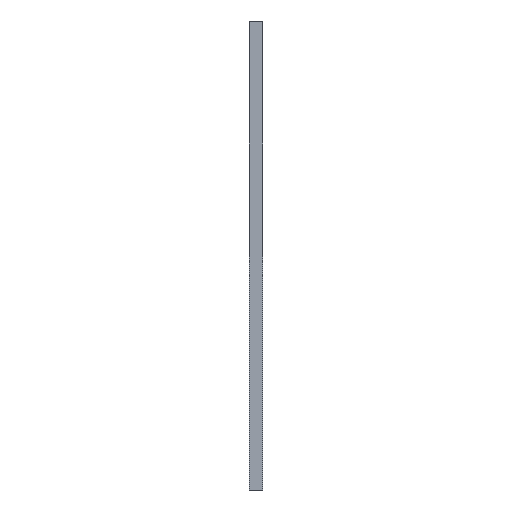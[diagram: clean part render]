
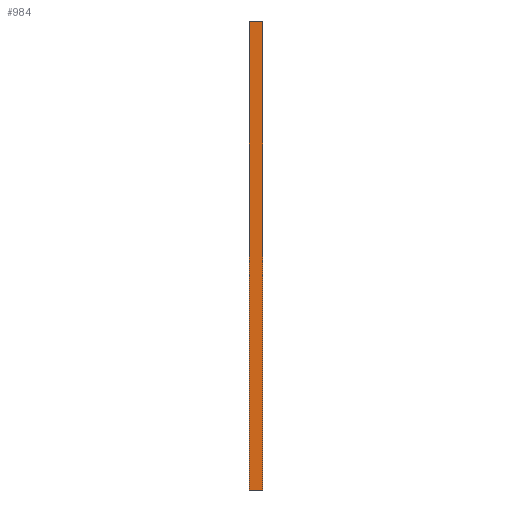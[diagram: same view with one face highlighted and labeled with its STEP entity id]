
A CAD part, left-side view. The second image highlights one B-rep face of the part: STEP entity #984.
In plain terms, the highlighted planar face has unit normal (-1, 0, 0).
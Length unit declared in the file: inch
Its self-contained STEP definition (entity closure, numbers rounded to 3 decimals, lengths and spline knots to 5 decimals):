
#16 = CARTESIAN_POINT ( 'NONE',  ( 0., 0.09, 0. ) ) ;
#45 = VERTEX_POINT ( 'NONE', #473 ) ;
#46 = CARTESIAN_POINT ( 'NONE',  ( 0., 0., -3.1 ) ) ;
#99 = ORIENTED_EDGE ( 'NONE', *, *, #701, .F. ) ;
#122 = CARTESIAN_POINT ( 'NONE',  ( 0., 0.09, -3.1 ) ) ;
#125 = FACE_OUTER_BOUND ( 'NONE', #352, .T. ) ;
#144 = VECTOR ( 'NONE', #686, 39.37008 ) ;
#178 = VERTEX_POINT ( 'NONE', #16 ) ;
#218 = CARTESIAN_POINT ( 'NONE',  ( 0., 0.09, 0. ) ) ;
#248 = AXIS2_PLACEMENT_3D ( 'NONE', #218, #297, #870 ) ;
#274 = VECTOR ( 'NONE', #735, 39.37008 ) ;
#297 = DIRECTION ( 'NONE',  ( 1., 0., 0. ) ) ;
#352 = EDGE_LOOP ( 'NONE', ( #374, #1030, #99, #407 ) ) ;
#374 = ORIENTED_EDGE ( 'NONE', *, *, #411, .T. ) ;
#381 = CARTESIAN_POINT ( 'NONE',  ( 0., 0.09, 0. ) ) ;
#392 = LINE ( 'NONE', #1021, #144 ) ;
#399 = VERTEX_POINT ( 'NONE', #46 ) ;
#407 = ORIENTED_EDGE ( 'NONE', *, *, #566, .T. ) ;
#411 = EDGE_CURVE ( 'NONE', #399, #45, #961, .T. ) ;
#473 = CARTESIAN_POINT ( 'NONE',  ( 0., 0., 0. ) ) ;
#483 = LINE ( 'NONE', #653, #274 ) ;
#556 = VECTOR ( 'NONE', #867, 39.37008 ) ;
#566 = EDGE_CURVE ( 'NONE', #974, #399, #392, .T. ) ;
#607 = CARTESIAN_POINT ( 'NONE',  ( 0., 0., 0. ) ) ;
#653 = CARTESIAN_POINT ( 'NONE',  ( 0., 0.09, 0. ) ) ;
#686 = DIRECTION ( 'NONE',  ( 0., -1., 0. ) ) ;
#690 = DIRECTION ( 'NONE',  ( 0., 0., 1. ) ) ;
#699 = PLANE ( 'NONE',  #248 ) ;
#701 = EDGE_CURVE ( 'NONE', #974, #178, #483, .T. ) ;
#735 = DIRECTION ( 'NONE',  ( 0., 0., 1. ) ) ;
#867 = DIRECTION ( 'NONE',  ( 0., -1., 0. ) ) ;
#870 = DIRECTION ( 'NONE',  ( 0., 0., -1. ) ) ;
#901 = VECTOR ( 'NONE', #690, 39.37008 ) ;
#961 = LINE ( 'NONE', #607, #901 ) ;
#974 = VERTEX_POINT ( 'NONE', #122 ) ;
#983 = EDGE_CURVE ( 'NONE', #178, #45, #1055, .T. ) ;
#984 = ADVANCED_FACE ( 'NONE', ( #125 ), #699, .F. ) ;
#1021 = CARTESIAN_POINT ( 'NONE',  ( 0., 0.09, -3.1 ) ) ;
#1030 = ORIENTED_EDGE ( 'NONE', *, *, #983, .F. ) ;
#1055 = LINE ( 'NONE', #381, #556 ) ;
